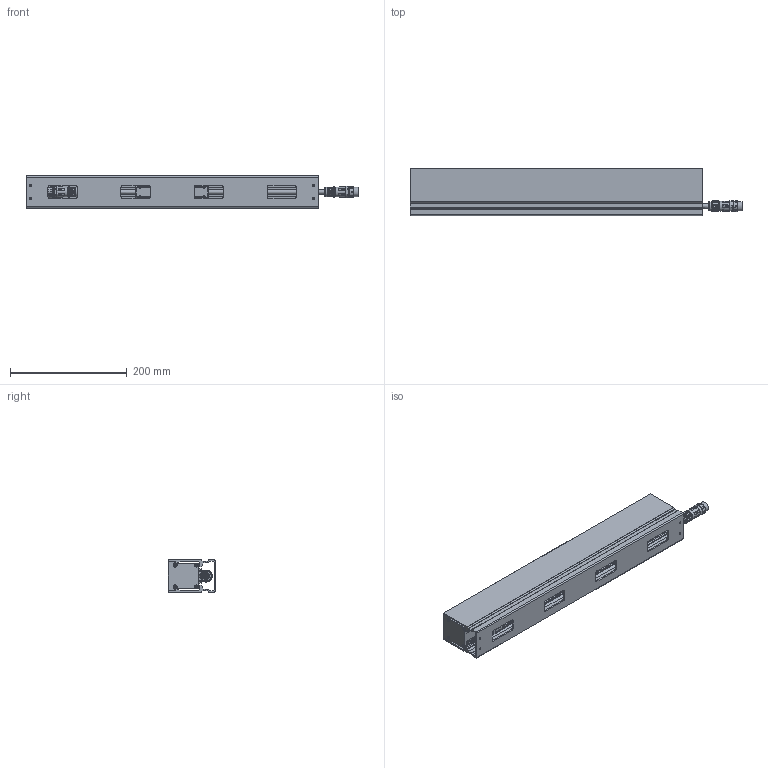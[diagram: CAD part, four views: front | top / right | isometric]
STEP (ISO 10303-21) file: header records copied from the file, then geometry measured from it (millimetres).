
FILE_DESCRIPTION (( 'STEP AP214' ), '1' );
FILE_NAME ('Linear Inground - L500.STEP', '2025-08-26T12:12:53', ( '' ), ( '' ), 'SwSTEP 2.0', 'SolidWorks 2025', '' );
FILE_SCHEMA (( 'AUTOMOTIVE_DESIGN' ));
Length unit declared in the file: millimetre
Products named in the file (7): Linear Inground - Body_L500; M17 5p Female; Linear Inground - L500; M17 5p Male; Part115^Linear Inground_L500; Linear Inground - Cable_L500; Linear Inground - Bracket_L500
Assembly tree (6 placements, depth 2):
  Linear Inground - L500
    Linear Inground - Bracket_L500
    Linear Inground - Body_L500
    Part115^Linear Inground_L500
    M17 5p Male
    M17 5p Female
    Linear Inground - Cable_L500
Bounding box: 568 x 80.6 x 55 mm (x, y, z)
Volume: 1531364.1 mm3; surface area: 393159.5 mm2
Topology: 10 solids, 22 shells, 1912 faces, 4683 edges, 2851 vertices
Faces by surface type: cylinder 719, plane 710, cone 176, torus 147, bspline 142, sphere 18
Full cylindrical faces by diameter (mm): 2.7 x4, 3.2 x4, 15 x2, 16 x1, 16.6 x1
Entity records: 78217 total; most frequent: CARTESIAN_POINT 24699, ORIENTED_EDGE 9230, DIRECTION 8848, EDGE_CURVE 4615, AXIS2_PLACEMENT_3D 3482, VERTEX_POINT 2837, EDGE_LOOP 2046, FACE_OUTER_BOUND 1926
